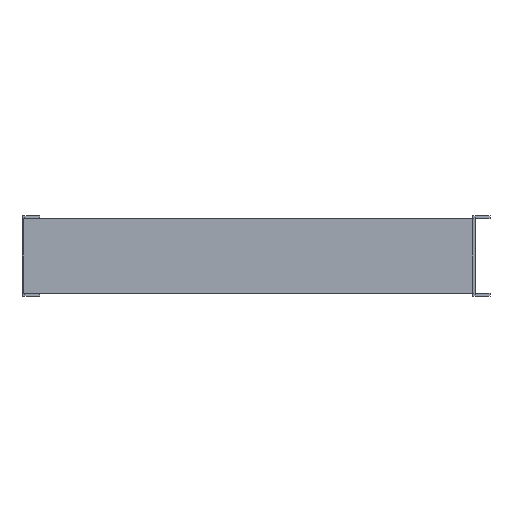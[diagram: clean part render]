
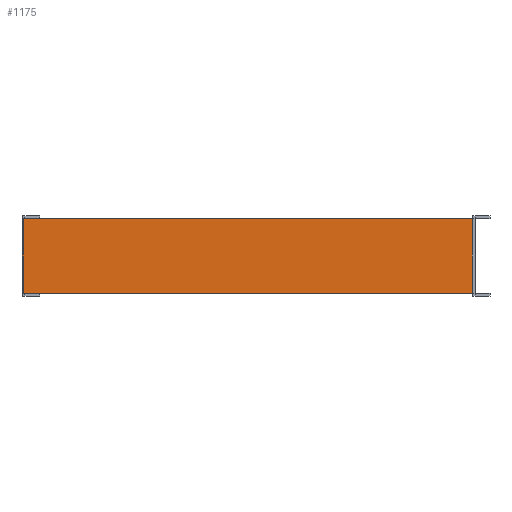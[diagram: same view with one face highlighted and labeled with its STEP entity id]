
A CAD part, left-side view. The second image highlights one B-rep face of the part: STEP entity #1175.
In plain terms, the highlighted planar face has unit normal (-1, 0, 0).
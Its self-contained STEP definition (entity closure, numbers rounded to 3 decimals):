
#75=FACE_OUTER_BOUND('',#147,.T.);
#147=EDGE_LOOP('',(#918,#919,#920,#921));
#203=LINE('',#1638,#353);
#205=LINE('',#1644,#355);
#212=LINE('',#1661,#362);
#269=LINE('',#1774,#419);
#353=VECTOR('',#1317,304.8);
#355=VECTOR('',#1321,304.8);
#362=VECTOR('',#1334,304.8);
#419=VECTOR('',#1439,304.8);
#496=VERTEX_POINT('',#1619);
#505=VERTEX_POINT('',#1636);
#507=VERTEX_POINT('',#1641);
#508=VERTEX_POINT('',#1643);
#613=EDGE_CURVE('',#505,#496,#203,.T.);
#615=EDGE_CURVE('',#507,#508,#205,.T.);
#624=EDGE_CURVE('',#496,#507,#212,.T.);
#681=EDGE_CURVE('',#508,#505,#269,.T.);
#918=ORIENTED_EDGE('',*,*,#613,.F.);
#919=ORIENTED_EDGE('',*,*,#681,.F.);
#920=ORIENTED_EDGE('',*,*,#615,.F.);
#921=ORIENTED_EDGE('',*,*,#624,.F.);
#1115=PLANE('',#1250);
#1175=ADVANCED_FACE('',(#75),#1115,.T.);
#1250=AXIS2_PLACEMENT_3D('',#1775,#1440,#1441);
#1317=DIRECTION('',(0.,-1.,0.));
#1321=DIRECTION('',(0.,1.,0.));
#1334=DIRECTION('',(0.,0.,-1.));
#1439=DIRECTION('',(0.,0.,1.));
#1440=DIRECTION('center_axis',(-1.,0.,0.));
#1441=DIRECTION('ref_axis',(0.,0.,-1.));
#1619=CARTESIAN_POINT('',(-1.,-150.,25.));
#1636=CARTESIAN_POINT('',(-1.,151.,25.));
#1638=CARTESIAN_POINT('',(-1.,151.,25.));
#1641=CARTESIAN_POINT('',(-1.,-150.,-25.));
#1643=CARTESIAN_POINT('',(-1.,151.,-25.));
#1644=CARTESIAN_POINT('',(-1.,-150.,-25.));
#1661=CARTESIAN_POINT('',(-1.,-150.,25.));
#1774=CARTESIAN_POINT('',(-1.,151.,25.));
#1775=CARTESIAN_POINT('Origin',(-1.,151.,25.));
